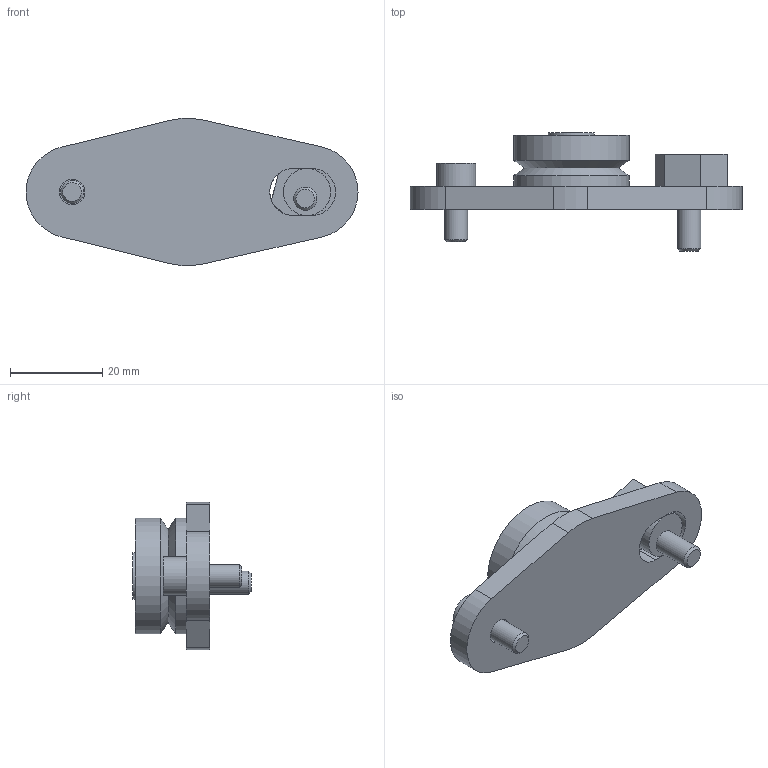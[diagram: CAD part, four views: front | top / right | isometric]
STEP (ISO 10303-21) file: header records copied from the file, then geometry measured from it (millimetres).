
FILE_DESCRIPTION( ( 'STEP AP203' ), '1' );
FILE_NAME( 'p:/temp/worker_333/temp/exporttempdir_3604_96_nyWm7/format_0/RBHJ25E.stp', '2022-06-02T04:31:00', ( 'License CC BY-ND 4.0' ), ( 'CADENAS' ), ' ', 'PARTsolutions', ' ' );
FILE_SCHEMA( ( 'CONFIG_CONTROL_DESIGN' ) );
Length unit declared in the file: millimetre
Products named in the file (1): _RBHJ25E
Bounding box: 72 x 25.6 x 31.92 mm (x, y, z)
Volume: 15144.3 mm3; surface area: 6636.8 mm2
Topology: 1 solids, 1 shells, 64 faces, 153 edges, 100 vertices
Faces by surface type: plane 45, cylinder 15, cone 4
Full cylindrical faces by diameter (mm): 5 x2, 5.5 x1, 8.5 x2, 10 x1, 10.21 x1, 25 x2
Entity records: 1806 total; most frequent: DIRECTION 304, CARTESIAN_POINT 299, ORIENTED_EDGE 274, EDGE_CURVE 137, AXIS2_PLACEMENT_3D 102, LINE 100, VECTOR 100, VERTEX_POINT 97
